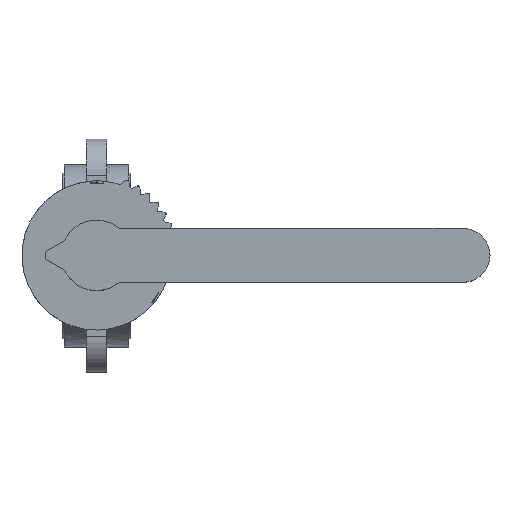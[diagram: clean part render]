
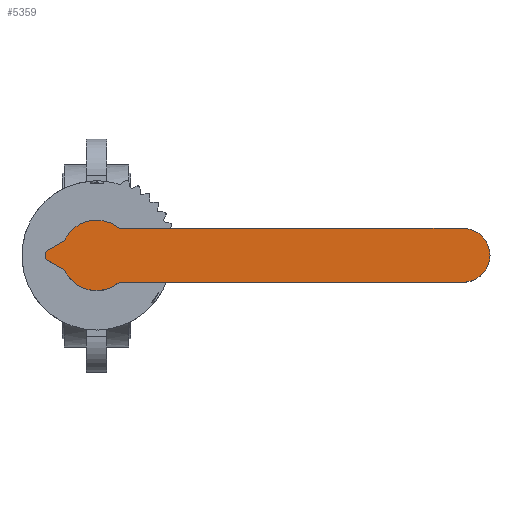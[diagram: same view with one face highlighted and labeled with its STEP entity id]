
A CAD part, top view. The second image highlights one B-rep face of the part: STEP entity #5359.
In plain terms, the highlighted planar face has unit normal (0, 0, 1).
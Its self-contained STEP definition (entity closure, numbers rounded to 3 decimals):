
#5359=ADVANCED_FACE('',(#10528),#10530,.T.);
#10528=FACE_BOUND('',#10529,.T.);
#10529=EDGE_LOOP('',(#14627,#14628,#14629,#14630,#14631,#14632,#14633,#14634,#14635,
#14636,#14637));
#10530=PLANE('',#10531);
#10531=AXIS2_PLACEMENT_3D('',#10532,#10533,#10534);
#10532=CARTESIAN_POINT('',(-1.545,-4.755,174.));
#10533=DIRECTION('',(0.,0.,1.));
#10534=DIRECTION('',(0.951,-0.309,0.));
#14627=ORIENTED_EDGE('',*,*,#16939,.F.);
#14628=ORIENTED_EDGE('',*,*,#16940,.T.);
#14629=ORIENTED_EDGE('',*,*,#16941,.T.);
#14630=ORIENTED_EDGE('',*,*,#16942,.T.);
#14631=ORIENTED_EDGE('',*,*,#16943,.T.);
#14632=ORIENTED_EDGE('',*,*,#16944,.T.);
#14633=ORIENTED_EDGE('',*,*,#16945,.T.);
#14634=ORIENTED_EDGE('',*,*,#16946,.T.);
#14635=ORIENTED_EDGE('',*,*,#16947,.T.);
#14636=ORIENTED_EDGE('',*,*,#16948,.T.);
#14637=ORIENTED_EDGE('',*,*,#16949,.T.);
#16939=EDGE_CURVE('',#20072,#20073,#20074,.F.);
#16940=EDGE_CURVE('',#20072,#20075,#20076,.T.);
#16941=EDGE_CURVE('',#20075,#20077,#20078,.T.);
#16942=EDGE_CURVE('',#20077,#20079,#20080,.T.);
#16943=EDGE_CURVE('',#20079,#20081,#20082,.T.);
#16944=EDGE_CURVE('',#20081,#20083,#20084,.T.);
#16945=EDGE_CURVE('',#20083,#20085,#20086,.T.);
#16946=EDGE_CURVE('',#20085,#20087,#20088,.T.);
#16947=EDGE_CURVE('',#20087,#20089,#20090,.T.);
#16948=EDGE_CURVE('',#20089,#20091,#20092,.T.);
#16949=EDGE_CURVE('',#20091,#20073,#20093,.T.);
#20072=VERTEX_POINT('',#28394);
#20073=VERTEX_POINT('',#28395);
#20074=CIRCLE('',#28396,13.);
#20075=VERTEX_POINT('',#28400);
#20076=LINE('',#28401,#28402);
#20077=VERTEX_POINT('',#28404);
#20078=CIRCLE('',#28405,17.);
#20079=VERTEX_POINT('',#28409);
#20080=CIRCLE('',#28410,17.);
#20081=VERTEX_POINT('',#28414);
#20082=CIRCLE('',#28415,3.);
#20083=VERTEX_POINT('',#28419);
#20084=LINE('',#28420,#28421);
#20085=VERTEX_POINT('',#28423);
#20086=CIRCLE('',#28424,3.);
#20087=VERTEX_POINT('',#28428);
#20088=LINE('',#28429,#28430);
#20089=VERTEX_POINT('',#28432);
#20090=CIRCLE('',#28433,3.);
#20091=VERTEX_POINT('',#28437);
#20092=CIRCLE('',#28438,17.);
#20093=LINE('',#28442,#28443);
#28394=CARTESIAN_POINT('',(177.,13.,174.));
#28395=CARTESIAN_POINT('',(177.,-13.,174.));
#28396=AXIS2_PLACEMENT_3D('',#28397,#28398,#28399);
#28397=CARTESIAN_POINT('',(177.,0.,174.));
#28398=DIRECTION('',(0.,0.,1.));
#28399=DIRECTION('',(0.,-1.,0.));
#28400=CARTESIAN_POINT('',(10.954,13.,174.));
#28401=CARTESIAN_POINT('',(177.,13.,174.));
#28402=VECTOR('',#28403,1.);
#28403=DIRECTION('',(-1.,0.,0.));
#28404=CARTESIAN_POINT('',(2.659,16.791,174.));
#28405=AXIS2_PLACEMENT_3D('',#28406,#28407,#28408);
#28406=CARTESIAN_POINT('',(0.,0.,174.));
#28407=DIRECTION('',(0.,0.,1.));
#28408=DIRECTION('',(0.644,0.765,0.));
#28409=CARTESIAN_POINT('',(-15.113,7.785,174.));
#28410=AXIS2_PLACEMENT_3D('',#28411,#28412,#28413);
#28411=CARTESIAN_POINT('',(0.,0.,174.));
#28412=DIRECTION('',(0.,0.,1.));
#28413=DIRECTION('',(0.156,0.988,0.));
#28414=CARTESIAN_POINT('',(-16.317,6.539,174.));
#28415=AXIS2_PLACEMENT_3D('',#28416,#28417,#28418);
#28416=CARTESIAN_POINT('',(-17.78,9.159,174.));
#28417=DIRECTION('',(0.,0.,-1.));
#28418=DIRECTION('',(0.889,-0.458,0.));
#28419=CARTESIAN_POINT('',(-23.338,2.619,174.));
#28420=CARTESIAN_POINT('',(-16.317,6.539,174.));
#28421=VECTOR('',#28422,1.);
#28422=DIRECTION('',(-0.873,-0.487,0.));
#28423=CARTESIAN_POINT('',(-23.338,-2.619,174.));
#28424=AXIS2_PLACEMENT_3D('',#28425,#28426,#28427);
#28425=CARTESIAN_POINT('',(-21.876,0.,174.));
#28426=DIRECTION('',(0.,0.,1.));
#28427=DIRECTION('',(-0.487,0.873,0.));
#28428=CARTESIAN_POINT('',(-16.317,-6.539,174.));
#28429=CARTESIAN_POINT('',(-23.338,-2.619,174.));
#28430=VECTOR('',#28431,1.);
#28431=DIRECTION('',(0.873,-0.487,0.));
#28432=CARTESIAN_POINT('',(-15.113,-7.785,174.));
#28433=AXIS2_PLACEMENT_3D('',#28434,#28435,#28436);
#28434=CARTESIAN_POINT('',(-17.78,-9.159,174.));
#28435=DIRECTION('',(0.,0.,-1.));
#28436=DIRECTION('',(0.487,0.873,0.));
#28437=CARTESIAN_POINT('',(10.954,-13.,174.));
#28438=AXIS2_PLACEMENT_3D('',#28439,#28440,#28441);
#28439=CARTESIAN_POINT('',(0.,0.,174.));
#28440=DIRECTION('',(0.,0.,1.));
#28441=DIRECTION('',(-0.889,-0.458,0.));
#28442=CARTESIAN_POINT('',(10.954,-13.,174.));
#28443=VECTOR('',#28444,1.);
#28444=DIRECTION('',(1.,0.,0.));
